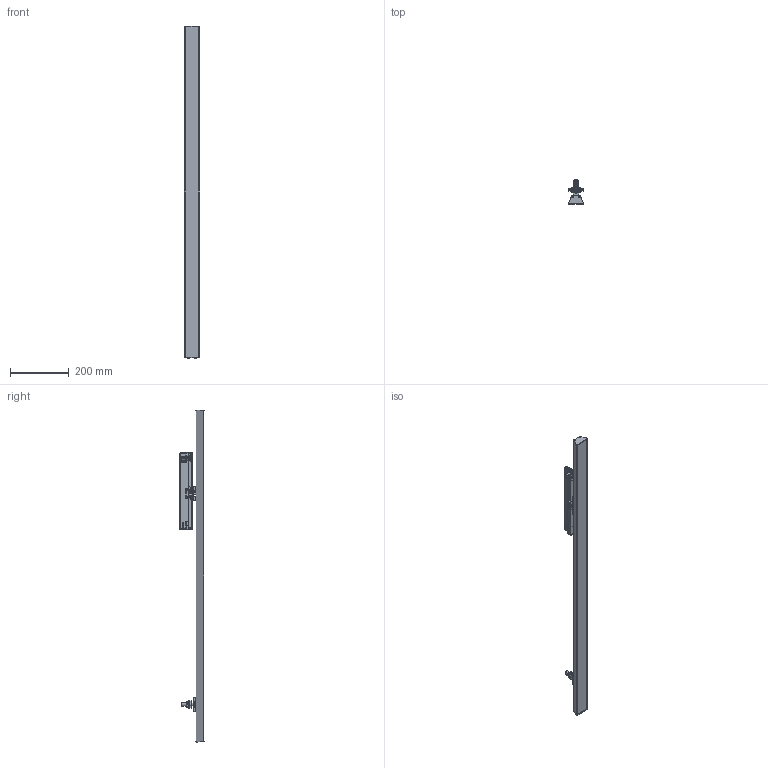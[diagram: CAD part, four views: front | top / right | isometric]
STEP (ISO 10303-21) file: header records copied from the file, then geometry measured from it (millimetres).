
FILE_DESCRIPTION (( 'STEP AP214' ), '1' );
FILE_NAME ('mLight Zelle 4B 1130mm Track Module.STEP', '2024-06-04T03:17:11', ( '' ), ( '' ), 'SwSTEP 2.0', 'SolidWorks 2021', '' );
FILE_SCHEMA (( 'AUTOMOTIVE_DESIGN' ));
Length unit declared in the file: millimetre
Products named in the file (13): Tridonic Track Driver LC 40W NFC_White Body; pan cross head_am_M6 x 40mm Philips Pan; flat washer regular_am_M6 Nylon Flat washer; prevailing torque hex nut_am_M6 Nyloc Nut; Track Hook Powergear PRO_M142_White body; Evelo Track adaptor bracket RevC; Tridonic Nipple M10 x 1mm; flat head screw_am_M3 x 12mm Philips CSK; Part8^Zelle Linear 3 CCT Track Module; flat head screw_am_M4 x 10mm Philips CSK; Spacer MP13SP217; Diffused Module endcap V2_Endcap White; mLight Zelle 4B 1130mm Track Module
Assembly tree (20 placements, depth 2):
  mLight Zelle 4B 1130mm Track Module
    Diffused Module endcap V2_Endcap White  x2
    Evelo Track adaptor bracket RevC  x2
    Tridonic Track Driver LC 40W NFC_White Body
    Tridonic Nipple M10 x 1mm
    Track Hook Powergear PRO_M142_White body
    Spacer MP13SP217
    pan cross head_am_M6 x 40mm Philips Pan
    flat washer regular_am_M6 Nylon Flat washer
    prevailing torque hex nut_am_M6 Nyloc Nut
    flat head screw_am_M3 x 12mm Philips CSK  x4
    flat head screw_am_M4 x 10mm Philips CSK  x4
    Part8^Zelle Linear 3 CCT Track Module
Bounding box: 52.2 x 82.9 x 1130.1 mm (x, y, z)
Volume: 1183629.6 mm3; surface area: 287146.6 mm2
Topology: 19 solids, 32 shells, 5706 faces, 15681 edges, 9966 vertices
Faces by surface type: plane 2632, cylinder 1628, bspline 1049, torus 177, cone 176, sphere 44
Full cylindrical faces by diameter (mm): 3 x4, 3.3 x4, 3.4 x4, 4 x4, 5 x1, 5.5 x4, 6 x2, 6.5 x1, 6.6 x1, 6.87 x1, 8.4 x4, 12 x1, 12.7 x1, 13.5 x1, 18.8 x1, 25 x1
Entity records: 368275 total; most frequent: CARTESIAN_POINT 223261, ORIENTED_EDGE 30629, DIRECTION 18097, EDGE_CURVE 15329, VERTEX_POINT 9778, B_SPLINE_CURVE_WITH_KNOTS 7642, VECTOR 6211, LINE 6211
